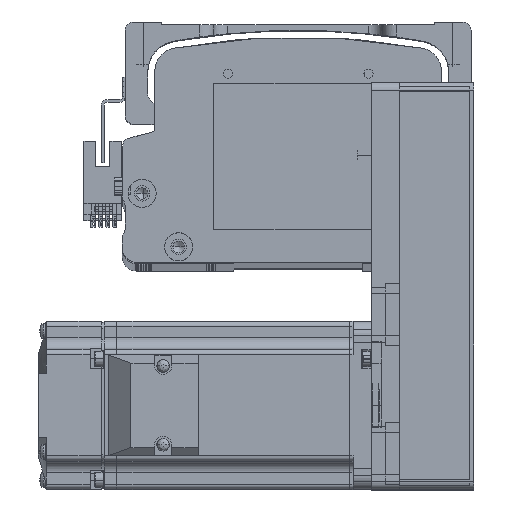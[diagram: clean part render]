
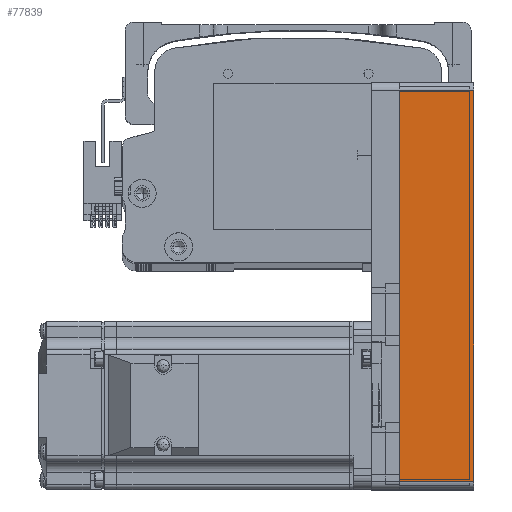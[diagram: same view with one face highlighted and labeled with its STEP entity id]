
A CAD part, top view. The second image highlights one B-rep face of the part: STEP entity #77839.
In plain terms, the highlighted planar face has unit normal (0, 0, 1) as drawn and (0, -1, 0) by its records, which use the part's own axes.
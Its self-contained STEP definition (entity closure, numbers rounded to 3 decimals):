
#536 = EDGE_LOOP ( 'NONE', ( #57606, #29566, #43631, #19523 ) ) ;
#1118 = EDGE_CURVE ( 'NONE', #38133, #14429, #52597, .T. ) ;
#6987 = LINE ( 'NONE', #78223, #76420 ) ;
#8114 = DIRECTION ( 'NONE',  ( 1., 0., 0. ) ) ;
#14429 = VERTEX_POINT ( 'NONE', #75898 ) ;
#16826 = VECTOR ( 'NONE', #8114, 1000. ) ;
#17833 = DIRECTION ( 'NONE',  ( 1., 0., 0. ) ) ;
#18378 = VERTEX_POINT ( 'NONE', #55222 ) ;
#18580 = CARTESIAN_POINT ( 'NONE',  ( -69.5, -30., 26.5 ) ) ;
#19523 = ORIENTED_EDGE ( 'NONE', *, *, #77997, .T. ) ;
#20961 = VECTOR ( 'NONE', #52071, 1000. ) ;
#23224 = CARTESIAN_POINT ( 'NONE',  ( 72.5, -30., 26.5 ) ) ;
#29566 = ORIENTED_EDGE ( 'NONE', *, *, #55458, .T. ) ;
#29990 = DIRECTION ( 'NONE',  ( -1., 0., 0. ) ) ;
#33792 = VECTOR ( 'NONE', #42587, 1000. ) ;
#38133 = VERTEX_POINT ( 'NONE', #76117 ) ;
#38921 = LINE ( 'NONE', #18580, #20961 ) ;
#42587 = DIRECTION ( 'NONE',  ( 0., 0., 1. ) ) ;
#43631 = ORIENTED_EDGE ( 'NONE', *, *, #50674, .F. ) ;
#50674 = EDGE_CURVE ( 'NONE', #18378, #52441, #6987, .T. ) ;
#52071 = DIRECTION ( 'NONE',  ( 0., 0., -1. ) ) ;
#52441 = VERTEX_POINT ( 'NONE', #72531 ) ;
#52597 = LINE ( 'NONE', #81922, #16826 ) ;
#55222 = CARTESIAN_POINT ( 'NONE',  ( -69.5, -30., 26.5 ) ) ;
#55458 = EDGE_CURVE ( 'NONE', #14429, #52441, #71690, .T. ) ;
#57606 = ORIENTED_EDGE ( 'NONE', *, *, #1118, .T. ) ;
#59950 = FACE_OUTER_BOUND ( 'NONE', #536, .T. ) ;
#70346 = DIRECTION ( 'NONE',  ( 0., 1., 0. ) ) ;
#71690 = LINE ( 'NONE', #82861, #33792 ) ;
#72531 = CARTESIAN_POINT ( 'NONE',  ( 69.5, -30., 26.5 ) ) ;
#75898 = CARTESIAN_POINT ( 'NONE',  ( 69.5, -30., 0. ) ) ;
#76117 = CARTESIAN_POINT ( 'NONE',  ( -69.5, -30., 0. ) ) ;
#76420 = VECTOR ( 'NONE', #17833, 1000. ) ;
#76813 = PLANE ( 'NONE',  #81430 ) ;
#77839 = ADVANCED_FACE ( 'NONE', ( #59950 ), #76813, .F. ) ;
#77997 = EDGE_CURVE ( 'NONE', #18378, #38133, #38921, .T. ) ;
#78223 = CARTESIAN_POINT ( 'NONE',  ( 72.5, -30., 26.5 ) ) ;
#81430 = AXIS2_PLACEMENT_3D ( 'NONE', #23224, #70346, #29990 ) ;
#81922 = CARTESIAN_POINT ( 'NONE',  ( 72.5, -30., 0. ) ) ;
#82861 = CARTESIAN_POINT ( 'NONE',  ( 69.5, -30., 26.5 ) ) ;
